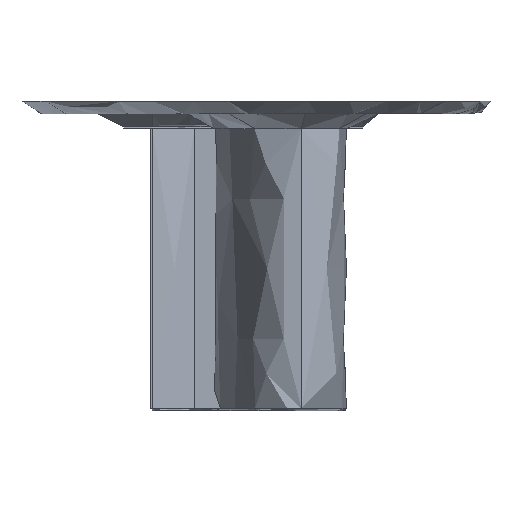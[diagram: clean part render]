
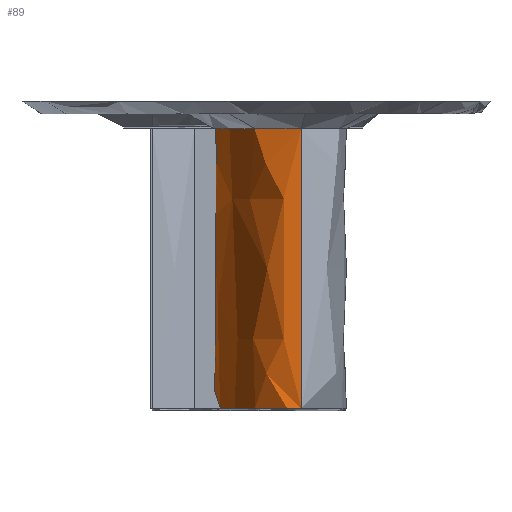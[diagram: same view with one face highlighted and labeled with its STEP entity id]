
A CAD part, left-side view. The second image highlights one B-rep face of the part: STEP entity #89.
In plain terms, the highlighted free-form (B-spline) face has degree [2, 1] with [9, 2] control points.
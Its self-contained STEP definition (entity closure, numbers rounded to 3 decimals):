
#89=ADVANCED_FACE('',(#161),#1017,.T.);
#161=FACE_OUTER_BOUND('',#233,.T.);
#233=EDGE_LOOP('',(#544,#545,#546,#547,#548,#549,#550,#551));
#544=ORIENTED_EDGE('',*,*,#712,.T.);
#545=ORIENTED_EDGE('',*,*,#707,.T.);
#546=ORIENTED_EDGE('',*,*,#713,.T.);
#547=ORIENTED_EDGE('',*,*,#708,.T.);
#548=ORIENTED_EDGE('',*,*,#715,.T.);
#549=ORIENTED_EDGE('',*,*,#717,.F.);
#550=ORIENTED_EDGE('',*,*,#720,.F.);
#551=ORIENTED_EDGE('',*,*,#719,.F.);
#707=EDGE_CURVE('',#978,#979,#804,.T.);
#708=EDGE_CURVE('',#980,#981,#805,.T.);
#712=EDGE_CURVE('',#977,#978,#809,.T.);
#713=EDGE_CURVE('',#979,#980,#810,.T.);
#715=EDGE_CURVE('',#981,#973,#812,.T.);
#717=EDGE_CURVE('',#984,#973,#814,.T.);
#719=EDGE_CURVE('',#977,#986,#816,.T.);
#720=EDGE_CURVE('',#986,#984,#817,.T.);
#804=(
BOUNDED_CURVE()
B_SPLINE_CURVE(2,(#7667,#7668,#7669),.UNSPECIFIED.,.F.,.F.)
B_SPLINE_CURVE_WITH_KNOTS((3,3),(-4.521,360.219),
 .UNSPECIFIED.)
CURVE()
GEOMETRIC_REPRESENTATION_ITEM()
RATIONAL_B_SPLINE_CURVE((1.,0.989,1.))
REPRESENTATION_ITEM('')
);
#805=(
BOUNDED_CURVE()
B_SPLINE_CURVE(2,(#7670,#7671,#7672),.UNSPECIFIED.,.F.,.F.)
B_SPLINE_CURVE_WITH_KNOTS((3,3),(507.729,679.695),
 .UNSPECIFIED.)
CURVE()
GEOMETRIC_REPRESENTATION_ITEM()
RATIONAL_B_SPLINE_CURVE((1.,0.968,1.))
REPRESENTATION_ITEM('')
);
#809=(
BOUNDED_CURVE()
B_SPLINE_CURVE(2,(#7682,#7683,#7684),.UNSPECIFIED.,.F.,.F.)
B_SPLINE_CURVE_WITH_KNOTS((3,3),(-146.891,-4.521),
 .UNSPECIFIED.)
CURVE()
GEOMETRIC_REPRESENTATION_ITEM()
RATIONAL_B_SPLINE_CURVE((1.,0.797,1.))
REPRESENTATION_ITEM('')
);
#810=(
BOUNDED_CURVE()
B_SPLINE_CURVE(2,(#7685,#7686,#7687),.UNSPECIFIED.,.F.,.F.)
B_SPLINE_CURVE_WITH_KNOTS((3,3),(360.219,507.729),
 .UNSPECIFIED.)
CURVE()
GEOMETRIC_REPRESENTATION_ITEM()
RATIONAL_B_SPLINE_CURVE((1.,0.912,1.))
REPRESENTATION_ITEM('')
);
#812=(
BOUNDED_CURVE()
B_SPLINE_CURVE(1,(#7691,#7692),.UNSPECIFIED.,.F.,.F.)
B_SPLINE_CURVE_WITH_KNOTS((2,2),(55.,725.),.UNSPECIFIED.)
CURVE()
GEOMETRIC_REPRESENTATION_ITEM()
RATIONAL_B_SPLINE_CURVE((1.,1.))
REPRESENTATION_ITEM('')
);
#814=(
BOUNDED_CURVE()
B_SPLINE_CURVE(2,(#7696,#7697,#7698,#7699,#7700,#7701,#7702,#7703,#7704),
 .UNSPECIFIED.,.F.,.F.)
B_SPLINE_CURVE_WITH_KNOTS((3,2,2,2,3),(798.569,901.743,
1255.628,1398.748,1565.596),.UNSPECIFIED.)
CURVE()
GEOMETRIC_REPRESENTATION_ITEM()
RATIONAL_B_SPLINE_CURVE((1.,0.883,1.,0.989,1.,0.912,
1.,0.968,1.))
REPRESENTATION_ITEM('')
);
#816=(
BOUNDED_CURVE()
B_SPLINE_CURVE(1,(#7730,#7731),.UNSPECIFIED.,.F.,.F.)
B_SPLINE_CURVE_WITH_KNOTS((2,2),(55.,725.),.UNSPECIFIED.)
CURVE()
GEOMETRIC_REPRESENTATION_ITEM()
RATIONAL_B_SPLINE_CURVE((1.,1.))
REPRESENTATION_ITEM('')
);
#817=(
BOUNDED_CURVE()
B_SPLINE_CURVE(2,(#7732,#7733,#7734),.UNSPECIFIED.,.F.,.F.)
B_SPLINE_CURVE_WITH_KNOTS((3,3),(763.61,798.569),
 .UNSPECIFIED.)
CURVE()
GEOMETRIC_REPRESENTATION_ITEM()
RATIONAL_B_SPLINE_CURVE((1.,0.987,1.))
REPRESENTATION_ITEM('')
);
#973=VERTEX_POINT('',#7607);
#977=VERTEX_POINT('',#7611);
#978=VERTEX_POINT('',#7612);
#979=VERTEX_POINT('',#7613);
#980=VERTEX_POINT('',#7614);
#981=VERTEX_POINT('',#7615);
#984=VERTEX_POINT('',#7618);
#986=VERTEX_POINT('',#7620);
#1017=(
BOUNDED_SURFACE()
B_SPLINE_SURFACE(2,1,((#7589,#7590),(#7591,#7592),(#7593,#7594),(#7595,
#7596),(#7597,#7598),(#7599,#7600),(#7601,#7602),(#7603,#7604),(#7605,#7606)),
 .UNSPECIFIED.,.F.,.F.,.F.)
B_SPLINE_SURFACE_WITH_KNOTS((3,2,2,2,3),(2,2),(1466.727,1609.097,
1973.838,2121.348,2293.314),(0.,730.),
 .UNSPECIFIED.)
GEOMETRIC_REPRESENTATION_ITEM()
RATIONAL_B_SPLINE_SURFACE(((1.,1.),(0.797,0.797),
(1.,1.),(0.989,0.989),(1.,1.),(0.912,
0.912),(1.,1.),(0.968,0.968),(1.,1.)))
REPRESENTATION_ITEM('')
SURFACE()
);
#7589=CARTESIAN_POINT('',(-805.708,-108.51,730.));
#7590=CARTESIAN_POINT('',(-805.708,-108.51,0.));
#7591=CARTESIAN_POINT('',(-816.612,-28.315,730.));
#7592=CARTESIAN_POINT('',(-816.612,-28.315,0.));
#7593=CARTESIAN_POINT('',(-742.322,3.796,730.));
#7594=CARTESIAN_POINT('',(-742.322,3.796,0.));
#7595=CARTESIAN_POINT('',(-573.692,76.683,730.));
#7596=CARTESIAN_POINT('',(-573.692,76.683,0.));
#7597=CARTESIAN_POINT('',(-391.147,97.323,730.));
#7598=CARTESIAN_POINT('',(-391.147,97.323,0.));
#7599=CARTESIAN_POINT('',(-313.151,106.142,730.));
#7600=CARTESIAN_POINT('',(-313.151,106.142,0.));
#7601=CARTESIAN_POINT('',(-254.836,53.602,730.));
#7602=CARTESIAN_POINT('',(-254.836,53.602,0.));
#7603=CARTESIAN_POINT('',(-189.538,-5.229,730.));
#7604=CARTESIAN_POINT('',(-189.538,-5.229,0.));
#7605=CARTESIAN_POINT('',(-161.215,-88.431,730.));
#7606=CARTESIAN_POINT('',(-161.215,-88.431,0.));
#7607=CARTESIAN_POINT('',(-161.215,-88.431,5.));
#7611=CARTESIAN_POINT('',(-805.708,-108.51,675.));
#7612=CARTESIAN_POINT('',(-742.322,3.796,675.));
#7613=CARTESIAN_POINT('',(-391.147,97.323,675.));
#7614=CARTESIAN_POINT('',(-254.836,53.602,675.));
#7615=CARTESIAN_POINT('',(-161.215,-88.431,675.));
#7618=CARTESIAN_POINT('',(-804.868,-74.552,5.));
#7620=CARTESIAN_POINT('',(-805.708,-108.51,5.));
#7667=CARTESIAN_POINT('',(-742.322,3.796,675.));
#7668=CARTESIAN_POINT('',(-573.692,76.683,675.));
#7669=CARTESIAN_POINT('',(-391.147,97.323,675.));
#7670=CARTESIAN_POINT('',(-254.836,53.602,675.));
#7671=CARTESIAN_POINT('',(-189.538,-5.229,675.));
#7672=CARTESIAN_POINT('',(-161.215,-88.431,675.));
#7682=CARTESIAN_POINT('',(-805.708,-108.51,675.));
#7683=CARTESIAN_POINT('',(-816.612,-28.315,675.));
#7684=CARTESIAN_POINT('',(-742.322,3.796,675.));
#7685=CARTESIAN_POINT('',(-391.147,97.323,675.));
#7686=CARTESIAN_POINT('',(-313.151,106.142,675.));
#7687=CARTESIAN_POINT('',(-254.836,53.602,675.));
#7691=CARTESIAN_POINT('',(-161.215,-88.431,675.));
#7692=CARTESIAN_POINT('',(-161.215,-88.431,5.));
#7696=CARTESIAN_POINT('',(-804.868,-74.552,5.));
#7697=CARTESIAN_POINT('',(-794.444,-18.733,5.));
#7698=CARTESIAN_POINT('',(-742.322,3.796,5.));
#7699=CARTESIAN_POINT('',(-573.692,76.683,5.));
#7700=CARTESIAN_POINT('',(-391.147,97.323,5.));
#7701=CARTESIAN_POINT('',(-313.151,106.142,5.));
#7702=CARTESIAN_POINT('',(-254.836,53.602,5.));
#7703=CARTESIAN_POINT('',(-189.538,-5.229,5.));
#7704=CARTESIAN_POINT('',(-161.215,-88.431,5.));
#7730=CARTESIAN_POINT('',(-805.708,-108.51,675.));
#7731=CARTESIAN_POINT('',(-805.708,-108.51,5.));
#7732=CARTESIAN_POINT('',(-805.708,-108.51,5.));
#7733=CARTESIAN_POINT('',(-808.026,-91.463,5.));
#7734=CARTESIAN_POINT('',(-804.868,-74.552,5.));
